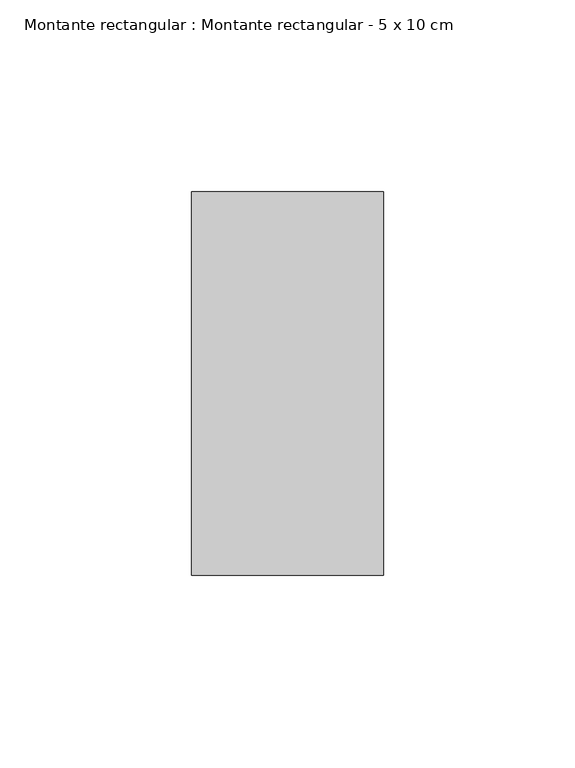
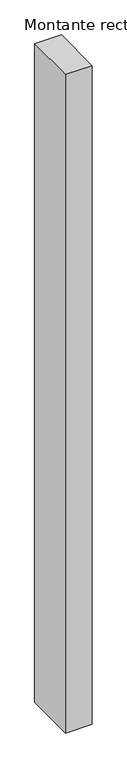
"""IFC4 building model written with IfcOpenShell, lengths in millimetres: member geometry, Montante rectangular : Montante rectangular - 5 x 10 cm."""

from ifc_helpers import new_model, si_unit, frame, origin, place, context, project, spatial, polyline, outline, extrude, source, transform, mapped, element, save


def montante_rectangular_montante_rectangular_5_x_10_cm_ecc333cd(model_context):
    return source(origin(), model_context, "Body", "SweptSolid", [
        extrude(outline(polyline([(0.0, 50.0), (0.0, -50.0), (-50.0, -50.0), (-50.0, 50.0), (0.0, 50.0)])), frame((0.0, 0.0, -1305.0), z_axis=(0.0, 0.0, 1.0), x_axis=(1.0, 0.0, 0.0)), (0.0, 0.0, 1.0), 1305.0),
    ])


if __name__ == "__main__":
    model = new_model("IFC4")
    model_context = context("Model", 3, world=origin())
    ifc_project = project(units=[si_unit("LENGTHUNIT", "METRE", prefix="MILLI")], contexts=[model_context])
    site = spatial("IfcSite", under=ifc_project)
    building = spatial("IfcBuilding", under=site)
    placement = place(None, origin())
    montante_rectangular_montante_rectangular_5_x_10_cm_shape = montante_rectangular_montante_rectangular_5_x_10_cm_ecc333cd(model_context)
    element("IfcMember", 1, ObjectType="Montante rectangular : Montante rectangular - 5 x 10 cm", at=placement, inside=building, context=model_context, shape_type="MappedRepresentation", body=[
        mapped(montante_rectangular_montante_rectangular_5_x_10_cm_shape, transform((0.0, 0.0, 0.0), x_axis=(1.0, 0.0, 0.0), y_axis=(0.0, 1.0, 0.0), z_axis=(0.0, 0.0, 1.0))),
    ])
    save(model, "model.ifc")
